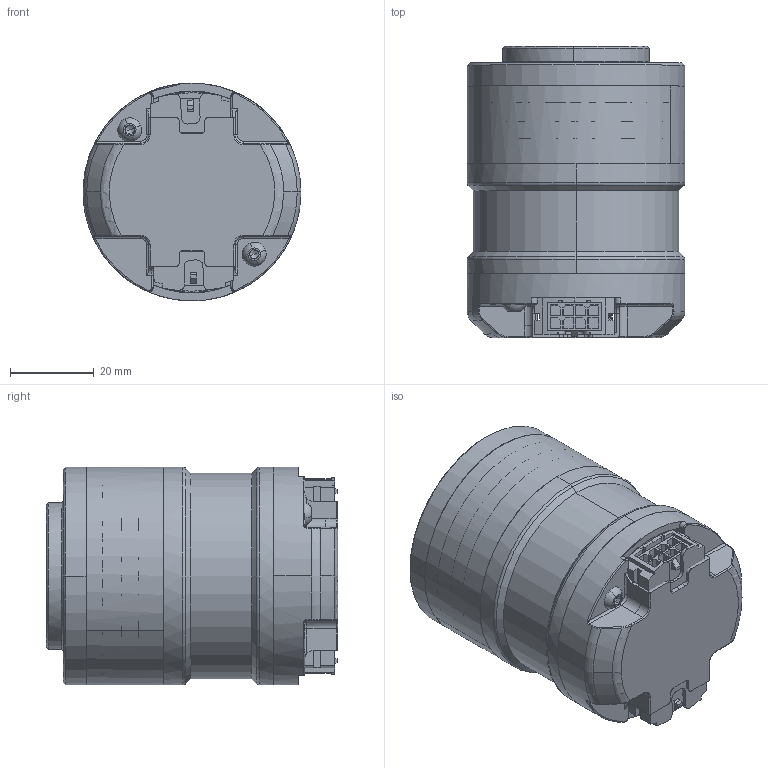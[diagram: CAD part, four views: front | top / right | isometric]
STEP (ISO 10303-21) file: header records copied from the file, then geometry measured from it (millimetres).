
FILE_DESCRIPTION (( 'STEP AP214' ), '1' );
FILE_NAME ('QDD-NE30-36_v2_11.STEP', '2019-06-20T02:56:09', ( 'Microsoft' ), ( 'Microsoft' ), 'SwSTEP 2.0', 'SolidWorks 2018', '' );
FILE_SCHEMA (( 'AUTOMOTIVE_DESIGN' ));
Length unit declared in the file: millimetre
Products named in the file (1): QDD-NE30-36_v2_11
Bounding box: 52 x 69.57 x 52 mm (x, y, z)
Volume: 115612.6 mm3; surface area: 49231 mm2
Topology: 21 solids, 24 shells, 2027 faces, 4961 edges, 3025 vertices
Faces by surface type: plane 1013, cylinder 463, torus 210, cone 165, bspline 160, sphere 16
Entity records: 90229 total; most frequent: CARTESIAN_POINT 22020, ORIENTED_EDGE 9794, DIRECTION 8931, EDGE_CURVE 4897, AXIS2_PLACEMENT_3D 3029, VERTEX_POINT 3025, VECTOR 2873, LINE 2873
